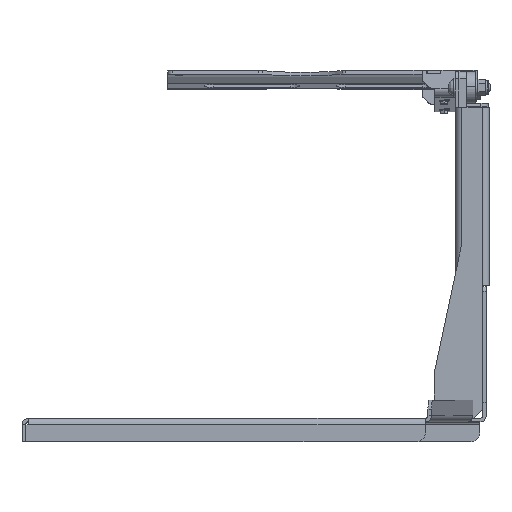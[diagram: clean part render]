
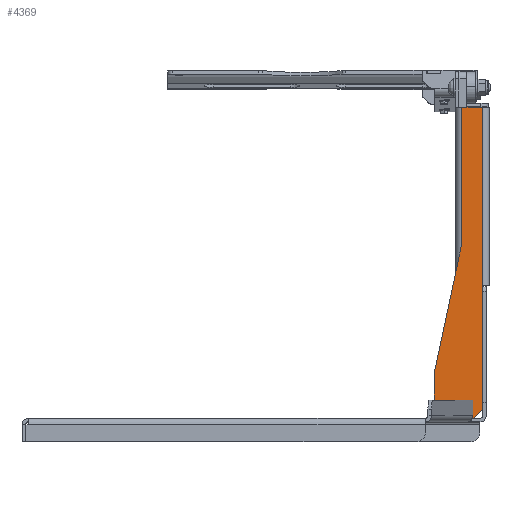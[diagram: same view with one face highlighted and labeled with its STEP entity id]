
A CAD part, left-side view. The second image highlights one B-rep face of the part: STEP entity #4369.
In plain terms, the highlighted planar face has unit normal (-1, 0, 0).
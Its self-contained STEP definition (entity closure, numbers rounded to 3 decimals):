
#4369=ADVANCED_FACE('',(#6500),#6501,.T.);
#6500=FACE_OUTER_BOUND('',#9233,.T.);
#6501=PLANE('',#9234);
#9233=EDGE_LOOP('',(#14422,#14423,#14424,#14425,#14426,#14427,#14428,#14429,#14430,#14431,#14432,#14433,#14434,#14435,#14436,#14437,#14438));
#9234=AXIS2_PLACEMENT_3D('',#14439,#14440,#14441);
#14422=ORIENTED_EDGE('',*,*,#21122,.F.);
#14423=ORIENTED_EDGE('',*,*,#21123,.F.);
#14424=ORIENTED_EDGE('',*,*,#21124,.F.);
#14425=ORIENTED_EDGE('',*,*,#21125,.F.);
#14426=ORIENTED_EDGE('',*,*,#21052,.F.);
#14427=ORIENTED_EDGE('',*,*,#21112,.F.);
#14428=ORIENTED_EDGE('',*,*,#21126,.F.);
#14429=ORIENTED_EDGE('',*,*,#21127,.F.);
#14430=ORIENTED_EDGE('',*,*,#21041,.F.);
#14431=ORIENTED_EDGE('',*,*,#21065,.T.);
#14432=ORIENTED_EDGE('',*,*,#21062,.T.);
#14433=ORIENTED_EDGE('',*,*,#21128,.F.);
#14434=ORIENTED_EDGE('',*,*,#21129,.T.);
#14435=ORIENTED_EDGE('',*,*,#21130,.T.);
#14436=ORIENTED_EDGE('',*,*,#21131,.T.);
#14437=ORIENTED_EDGE('',*,*,#21132,.F.);
#14438=ORIENTED_EDGE('',*,*,#21033,.F.);
#14439=CARTESIAN_POINT('',(221.0,137.0,199.0));
#14440=DIRECTION('',(-1.0,0.0,0.));
#14441=DIRECTION('',(0.,0.0,1.0));
#21033=EDGE_CURVE('',#24483,#24485,#24486,.T.);
#21041=EDGE_CURVE('',#24498,#24499,#24500,.F.);
#21052=EDGE_CURVE('',#24516,#24518,#24519,.T.);
#21062=EDGE_CURVE('',#24528,#24533,#24535,.T.);
#21065=EDGE_CURVE('',#24498,#24528,#24538,.T.);
#21112=EDGE_CURVE('',#24610,#24516,#24612,.F.);
#21122=EDGE_CURVE('',#24623,#24483,#24624,.T.);
#21123=EDGE_CURVE('',#24625,#24623,#24626,.T.);
#21124=EDGE_CURVE('',#24627,#24625,#24628,.T.);
#21125=EDGE_CURVE('',#24518,#24627,#24629,.F.);
#21126=EDGE_CURVE('',#24630,#24610,#24631,.T.);
#21127=EDGE_CURVE('',#24499,#24630,#24632,.T.);
#21128=EDGE_CURVE('',#24633,#24533,#24634,.F.);
#21129=EDGE_CURVE('',#24633,#24635,#24636,.T.);
#21130=EDGE_CURVE('',#24635,#24637,#24638,.T.);
#21131=EDGE_CURVE('',#24637,#24639,#24640,.T.);
#21132=EDGE_CURVE('',#24485,#24639,#24641,.F.);
#24483=VERTEX_POINT('',#29969);
#24485=VERTEX_POINT('',#29972);
#24486=LINE('',#29973,#29974);
#24498=VERTEX_POINT('',#29989);
#24499=VERTEX_POINT('',#29990);
#24500=CIRCLE('',#29991,10.0);
#24516=VERTEX_POINT('',#30013);
#24518=VERTEX_POINT('',#30016);
#24519=LINE('',#30017,#30018);
#24528=VERTEX_POINT('',#30031);
#24533=VERTEX_POINT('',#30038);
#24535=LINE('',#30041,#30042);
#24538=LINE('',#30046,#30047);
#24610=VERTEX_POINT('',#30151);
#24612=LINE('',#30153,#30154);
#24623=VERTEX_POINT('',#30168);
#24624=LINE('',#30169,#30170);
#24625=VERTEX_POINT('',#30171);
#24626=LINE('',#30172,#30173);
#24627=VERTEX_POINT('',#30174);
#24628=LINE('',#30175,#30176);
#24629=LINE('',#30177,#30178);
#24630=VERTEX_POINT('',#30179);
#24631=LINE('',#30180,#30181);
#24632=LINE('',#30182,#30183);
#24633=VERTEX_POINT('',#30184);
#24634=LINE('',#30185,#30186);
#24635=VERTEX_POINT('',#30187);
#24636=LINE('',#30188,#30189);
#24637=VERTEX_POINT('',#30190);
#24638=LINE('',#30191,#30192);
#24639=VERTEX_POINT('',#30193);
#24640=LINE('',#30194,#30195);
#24641=LINE('',#30196,#30197);
#29969=CARTESIAN_POINT('',(221.0,140.0,14.0));
#29972=CARTESIAN_POINT('',(221.0,150.0,4.0));
#29973=CARTESIAN_POINT('',(221.0,46.0,108.0));
#29974=VECTOR('',#36186,1.0);
#29989=CARTESIAN_POINT('',(221.0,163.219,193.972));
#29990=CARTESIAN_POINT('',(221.0,163.0,196.051));
#29991=AXIS2_PLACEMENT_3D('',#36196,#36197,#36198);
#30013=CARTESIAN_POINT('',(221.0,140.0,149.0));
#30016=CARTESIAN_POINT('',(221.0,140.0,109.0));
#30017=CARTESIAN_POINT('',(221.0,140.0,149.0));
#30018=VECTOR('',#36209,1.0);
#30031=CARTESIAN_POINT('',(221.0,193.0,53.861));
#30038=CARTESIAN_POINT('',(221.0,193.0,4.0));
#30041=CARTESIAN_POINT('',(221.0,193.0,53.861));
#30042=VECTOR('',#36217,1.0);
#30046=CARTESIAN_POINT('',(221.0,163.0,195.0));
#30047=VECTOR('',#36219,1.0);
#30151=CARTESIAN_POINT('',(221.0,140.0,345.0));
#30153=CARTESIAN_POINT('',(221.0,140.0,199.0));
#30154=VECTOR('',#36267,1.0);
#30168=CARTESIAN_POINT('',(221.0,140.0,101.0));
#30169=CARTESIAN_POINT('',(221.0,140.0,149.0));
#30170=VECTOR('',#36280,1.0);
#30171=CARTESIAN_POINT('',(221.0,137.0,101.0));
#30172=CARTESIAN_POINT('',(221.0,140.0,101.0));
#30173=VECTOR('',#36281,1.0);
#30174=CARTESIAN_POINT('',(221.0,137.0,109.0));
#30175=CARTESIAN_POINT('',(221.0,137.0,76.5));
#30176=VECTOR('',#36282,1.0);
#30177=CARTESIAN_POINT('',(221.0,140.0,109.0));
#30178=VECTOR('',#36283,1.0);
#30179=CARTESIAN_POINT('',(221.0,163.0,345.0));
#30180=CARTESIAN_POINT('',(221.0,137.0,345.0));
#30181=VECTOR('',#36284,1.0);
#30182=CARTESIAN_POINT('',(221.0,163.0,199.0));
#30183=VECTOR('',#36285,1.0);
#30184=CARTESIAN_POINT('',(221.0,190.0,4.0));
#30185=CARTESIAN_POINT('',(221.0,137.0,4.0));
#30186=VECTOR('',#36286,1.0);
#30187=CARTESIAN_POINT('',(221.0,190.0,1.0));
#30188=CARTESIAN_POINT('',(221.0,190.0,4.0));
#30189=VECTOR('',#36287,1.0);
#30190=CARTESIAN_POINT('',(221.0,180.0,1.0));
#30191=CARTESIAN_POINT('',(221.0,190.0,1.0));
#30192=VECTOR('',#36288,1.0);
#30193=CARTESIAN_POINT('',(221.0,180.0,4.0));
#30194=CARTESIAN_POINT('',(221.0,180.0,1.0));
#30195=VECTOR('',#36289,1.0);
#30196=CARTESIAN_POINT('',(221.0,137.0,4.0));
#30197=VECTOR('',#36290,1.0);
#36186=DIRECTION('',(0.,0.707,-0.707));
#36196=CARTESIAN_POINT('',(221.0,173.0,196.051));
#36197=DIRECTION('',(1.0,0.0,0.));
#36198=DIRECTION('',(0.,0.0,1.0));
#36209=DIRECTION('',(0.0,0.0,-1.0));
#36217=DIRECTION('',(0.,0.0,-1.0));
#36219=DIRECTION('',(0.,0.208,-0.978));
#36267=DIRECTION('',(0.,0.0,1.0));
#36280=DIRECTION('',(0.0,0.0,-1.0));
#36281=DIRECTION('',(0.,1.0,0.));
#36282=DIRECTION('',(0.,0.,-1.0));
#36283=DIRECTION('',(0.,1.0,0.));
#36284=DIRECTION('',(0.0,-1.0,0.0));
#36285=DIRECTION('',(0.,0.0,1.0));
#36286=DIRECTION('',(0.0,-1.0,0.0));
#36287=DIRECTION('',(0.0,0.0,-1.0));
#36288=DIRECTION('',(0.0,-1.0,0.0));
#36289=DIRECTION('',(0.0,0.0,1.0));
#36290=DIRECTION('',(0.0,-1.0,0.0));
